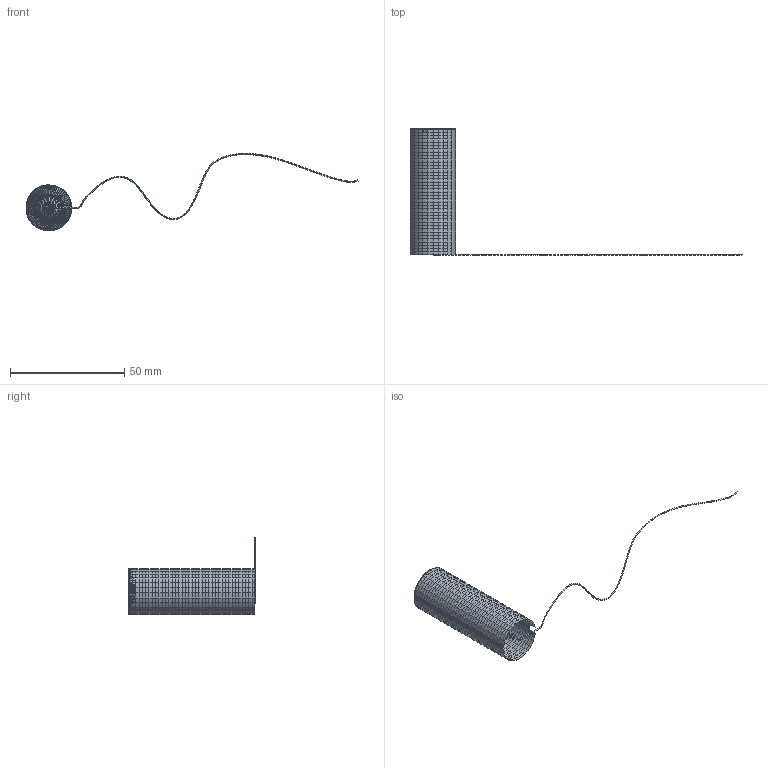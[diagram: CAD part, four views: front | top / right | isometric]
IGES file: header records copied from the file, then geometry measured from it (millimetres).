
Global section: file name: C:\Users\gio\Documents\LAVORI\Kartell\COMPLETI\TOOBE piccola\Toobe_Ferruccio Laviani_Kartell.igs; native system: Rhinoceros ( Oct 24 2012 ); preprocessor: Trout Lake IGES 012 Oct 24 2012; date: 140312.081427; units: millimetre
Bounding box: 145.52 x 55.59 x 33.88 mm (x, y, z)
Surface area: 6955.9 mm2 (no closed solid volume)
Topology: 0 solids, 0 shells, 13815 faces, 54057 edges, 54057 vertices
Faces by surface type: bspline 13815
